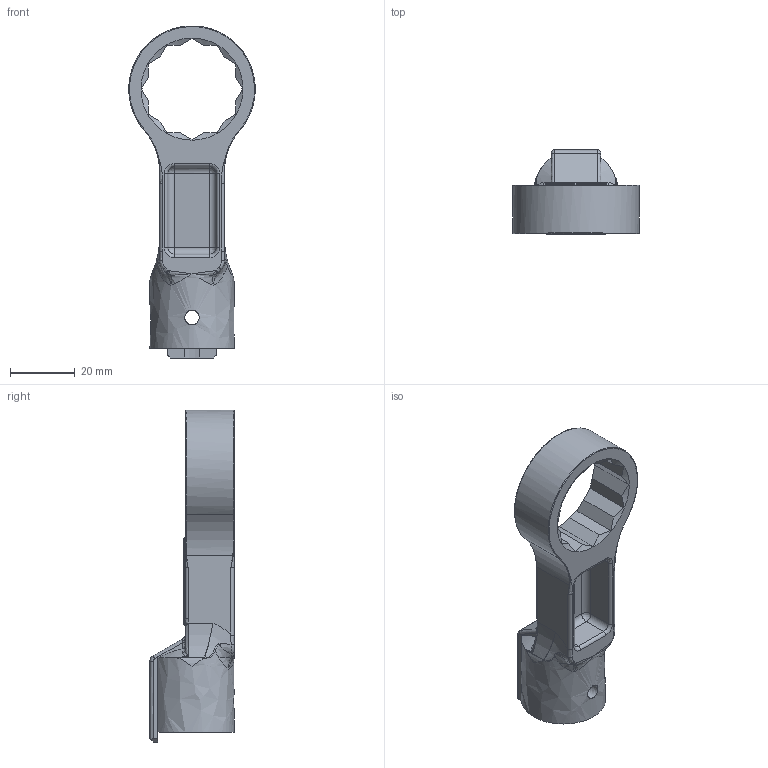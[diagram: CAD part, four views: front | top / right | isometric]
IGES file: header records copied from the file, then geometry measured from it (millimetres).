
Global section: file name: RH19DX27; native system: Autodesk Inventor 2016; preprocessor: unknown; author: q543; date: 20151110.165457; units: millimetre
Bounding box: 38.97 x 26 x 102.48 mm (x, y, z)
Volume: 22244.8 mm3; surface area: 11501 mm2
Topology: 1 solids, 1 shells, 204 faces, 524 edges, 302 vertices
Faces by surface type: bspline 204
